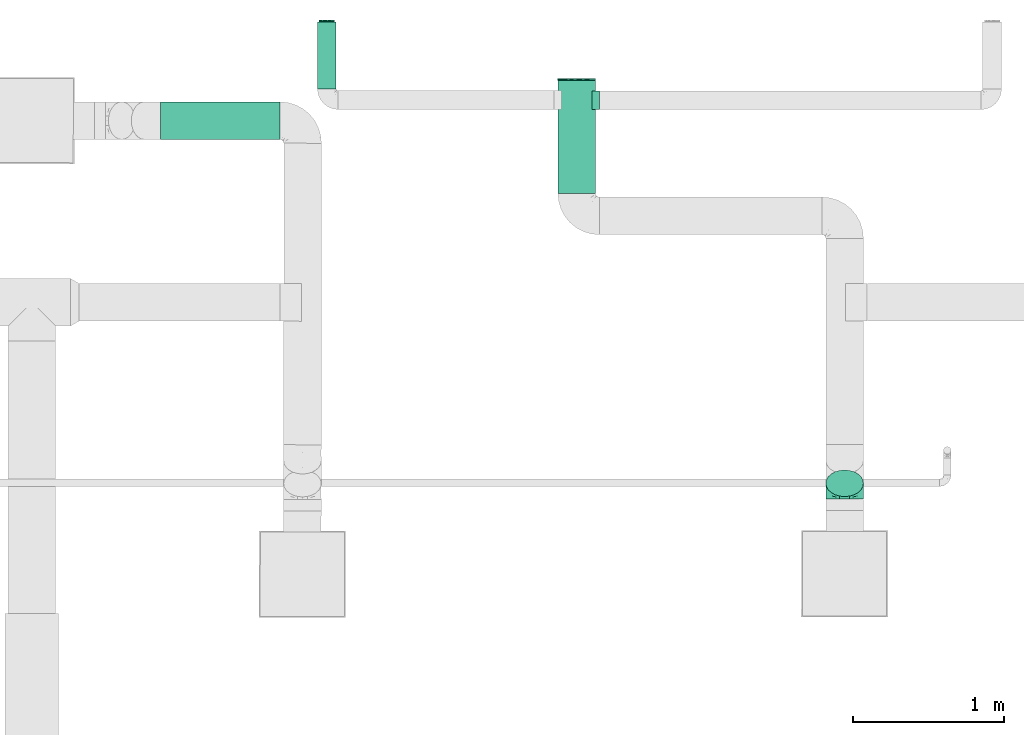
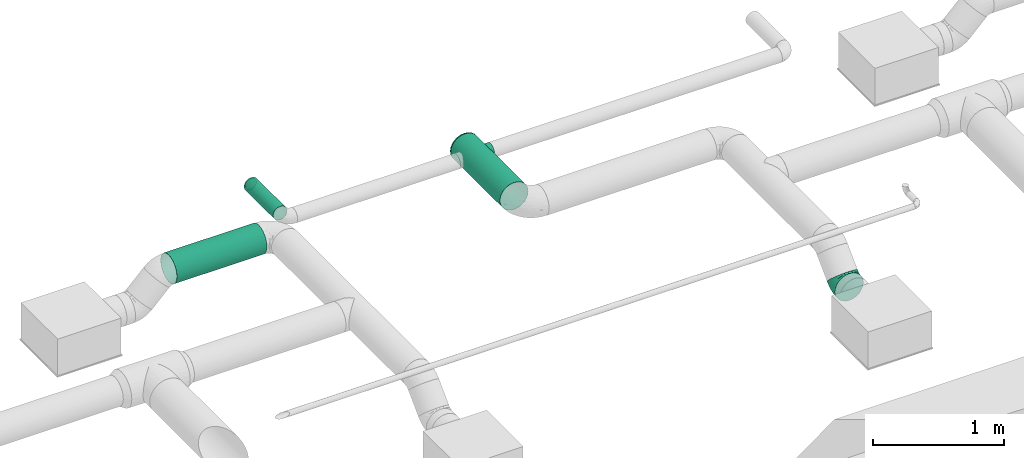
# One storey, part 40 of 63: 3 flow fittings, 3 flow segments, 1 flow terminal.
"""IFC2X3 building model written with IfcOpenShell, lengths in millimetres."""

from ifc_helpers import new_model, entity, si_unit, converted_unit, derived_unit, direction, frame, origin_with_axes, origin_2d_with_axis, place, context, subcontext, project, spatial, hollow_circle, extrude, open_shell, surface_model, source, transform, mapped, type_object, element, save


model = new_model("IFC2X3")

# Units and contexts
model_context = context("Model", 3, precision=0.01, world=frame((0.0, 4.29681676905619e-09, 0.0)), true_north=direction((4.01073788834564e-13, 1.0)))
plan_context = context("Plan", 3, precision=0.01, world=frame((0.0, 4.29681676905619e-09, 0.0)), true_north=direction((4.01073788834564e-13, 1.0)))
body_context = subcontext(model_context, "Body", "Model", "MODEL_VIEW")
ifc_project = project(units=[converted_unit("PLANEANGLEUNIT", "DEGREE", entity("IfcPositiveLengthMeasure", 0.0174532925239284), si_unit("PLANEANGLEUNIT", "RADIAN"), dimensions=[0, 0, 0, 0, 0, 0, 0]), si_unit("AREAUNIT", "SQUARE_METRE"), si_unit("LENGTHUNIT", "METRE", prefix="MILLI"), si_unit("MASSUNIT", "GRAM", prefix="KILO"), si_unit("POWERUNIT", "WATT"), si_unit("PRESSUREUNIT", "PASCAL"), si_unit("FORCEUNIT", "NEWTON", prefix="KILO"), si_unit("ELECTRICVOLTAGEUNIT", "VOLT"), si_unit("ELECTRICCURRENTUNIT", "AMPERE"), si_unit("THERMODYNAMICTEMPERATUREUNIT", "DEGREE_CELSIUS"), si_unit("TIMEUNIT", "SECOND"), si_unit("VOLUMEUNIT", "CUBIC_METRE"), derived_unit("LINEARVELOCITYUNIT", [(si_unit("LENGTHUNIT", "METRE"), 1), (si_unit("TIMEUNIT", "SECOND"), -1)]), derived_unit("VOLUMETRICFLOWRATEUNIT", [(si_unit("VOLUMEUNIT", "CUBIC_METRE"), 1), (si_unit("TIMEUNIT", "SECOND"), -1)]), derived_unit("THERMALTRANSMITTANCEUNIT", [(si_unit("POWERUNIT", "WATT"), 1), (si_unit("THERMODYNAMICTEMPERATUREUNIT", "KELVIN"), -1), (si_unit("AREAUNIT", "SQUARE_METRE"), -1)]), derived_unit("SOUNDPRESSUREUNIT", [(si_unit("PRESSUREUNIT", "PASCAL"), 1)])], contexts=[model_context, plan_context])

# Site, building, storey
site_placement = place(None, frame((0.0, -4.29681676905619e-09, 0.0), z_axis=(0.0, 0.0, 1.0), x_axis=(1.0, 0.0, 0.0)))
site = spatial("IfcSite", under=ifc_project, at=site_placement, CompositionType="ELEMENT")
building_placement = place(site_placement, frame((0.0, 4.29681676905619e-09, 0.0), z_axis=(0.0, 0.0, 1.0), x_axis=(1.0, 0.0, 0.0)))
building = spatial("IfcBuilding", under=site, at=building_placement, Name="mc-building", CompositionType="ELEMENT")
storey_placement = place(building_placement, frame((0.0, 0.0, 210900.0), z_axis=(0.0, 0.0, 1.0), x_axis=(1.0, 0.0, 0.0)))
storey = spatial("IfcBuildingStorey", under=building, at=storey_placement, Name="Nivå F", CompositionType="ELEMENT", Elevation=210900.0)

# Flow fittings
duct_fitting_type_1 = type_object("IfcDuctFittingType", Name="magicirc_elbow_short_001", PredefinedType="BEND")
shared_shape_1 = source(origin_with_axes(), body_context, "Body", "SurfaceModel", [
    surface_model("IfcShellBasedSurfaceModel", [(-62.13204, 0.0, -125.0), (-62.13204, -32.35238, -120.74073), (-62.13204, 32.35238, -120.74073), (-62.13204, 62.5, -108.25318), (-62.13204, 88.38835, -88.38835), (-62.13204, 108.25318, -62.5), (-62.13204, 120.74073, -32.35238), (-62.13204, -62.5, -108.25318), (-62.13204, -88.38835, -88.38835), (-62.13204, -125.0, 0.0), (-62.13204, -108.25318, -62.5), (-62.13204, -120.74073, -32.35238), (-62.13204, 125.0, 0.0), (-62.13204, -120.74073, 32.35238), (-62.13204, 120.74073, 32.35238), (-62.13204, 108.25318, 62.5), (-62.13204, 32.35238, 120.74073), (-62.13204, 62.5, 108.25318), (-62.13204, 88.38835, 88.38835), (-62.13204, -88.38835, 88.38835), (-62.13204, -108.25318, 62.5), (-62.13204, -32.35238, 120.74073), (-62.13204, 0.0, 125.0), (-62.13204, -62.5, 108.25318), (-32.61257, 120.48054, -62.5), (-41.44261, 129.31057, -32.35238), (-44.45436, 132.32233, 0.0), (-41.44261, 129.31057, 32.35238), (-32.61257, 120.48054, 62.5), (-39.32094, -100.77129, 72.52866), (-25.3983, -115.58366, 40.92131), (-9.38975, -99.61313, 67.6303), (-40.71594, 99.20513, 81.38635), (-18.56602, 106.43398, 88.38835), (6.93461, -16.74165, 121.22697), (-29.92798, -19.88945, 122.8817), (-17.69423, -50.99343, 111.83063), (-28.63512, 12.8945, 124.68547), (-43.55871, 45.16564, 117.17454), (-19.1971, 46.34588, 119.14586), (20.11216, -107.05726, 35.36285), (37.22525, -89.79474, 60.1728), (-42.64489, 65.81413, 107.6176), (18.18237, -43.89615, 109.72868), (-48.14682, 116.23669, 52.46898), (11.13029, 29.36587, 124.68547), (-8.4822, -119.71595, 0.0), (17.31186, -111.89141, 0.0), (-27.44697, 77.92943, 103.54984), (-1.13628, 62.73759, 117.17454), (-0.26019, 88.12816, 108.25318), (29.58221, -71.41779, 87.09722), (2.27359, -83.55864, 84.32151), (46.20365, -49.09439, 98.73245), (43.10591, -104.06687, 0.0), (-28.63512, 12.89449, -124.68547), (-29.92797, -19.88945, -122.8817), (11.13029, 29.36586, -124.68547), (-19.1971, 46.34588, -119.14586), (-43.55871, 45.16564, -117.17454), (-35.69649, 74.51237, -103.54983), (-25.3983, -115.58366, -40.92131), (-48.14682, 116.23669, -52.46898), (-39.32094, -100.77129, -72.52866), (-16.38313, 76.69211, -107.6176), (-18.56602, 106.43398, -88.38835), (-0.26019, 88.12816, -108.25318), (-17.69423, -50.99343, -111.83063), (6.93461, -16.74165, -121.22697), (-1.13628, 62.73759, -117.17454), (48.5695, -23.54609, -111.83063), (35.22623, 7.0983, -122.8817), (-9.38975, -99.61313, -67.63031), (2.04406, -67.38589, -98.73245), (29.58221, -71.41778, -87.09723), (43.93399, 43.934, -125.0), (106.43399, -18.56599, 88.38835), (132.32235, -44.45434, 0.0), (21.05739, 66.81058, -120.74073), (88.12817, -0.26017, 108.25318), (66.81057, 21.05741, -120.74073), (106.43399, -18.56599, -88.38835), (88.12817, -0.26017, -108.25318), (129.31058, -41.44258, -32.35238), (120.48055, -32.61255, -62.5), (21.05739, 66.81058, 120.74073), (43.93399, 43.934, 125.0), (129.31058, -41.44258, 32.35238), (120.48055, -32.61255, 62.5), (66.81057, 21.05741, 120.74073), (-31.08246, -121.94188, 0.0), (35.22622, 7.09831, 122.8817), (-25.98217, -78.69805, 94.74512), (-3.43913, -67.17105, 100.02812), (77.07669, -63.79755, 67.6303), (61.9235, -89.5906, 35.66991), (-52.56496, 126.90301, 0.0), (99.68931, -63.77067, 40.92131), (48.5695, -23.54609, 111.83062), (99.06018, -43.45194, 72.52866), (74.0201, -37.27574, 94.74512), (108.20455, -64.2473, 0.0), (90.64979, -78.65413, 0.0), (66.87785, -91.36049, 0.0), (19.56361, -107.13664, -35.66991), (-41.35812, 98.93914, -81.38635), (-25.98217, -78.69805, -94.74512), (61.47949, -89.92235, -35.36285), (18.18239, -43.89616, -109.72867), (57.47721, -60.69254, -84.32152), (74.02009, -37.27574, -94.74513), (77.07669, -63.79755, -67.6303), (37.17223, -89.81669, -60.17279), (99.68931, -63.77066, -40.92131), (99.06018, -43.45194, -72.52866), (49.92893, -45.06527, -100.02812)], [open_shell([[[0, 1, 2]], [[3, 2, 4]], [[1, 5, 2]], [[4, 2, 5]], [[5, 1, 6]], [[7, 8, 1]], [[9, 1, 8]], [[10, 11, 8]], [[9, 8, 11]], [[9, 6, 1]], [[9, 12, 6]], [[12, 13, 14]], [[15, 14, 16]], [[16, 17, 18]], [[15, 16, 18]], [[16, 14, 19]], [[20, 19, 13]], [[19, 14, 13]], [[21, 22, 23]], [[19, 23, 22]], [[19, 22, 16]], [[9, 13, 12]], [[24, 25, 26]], [[26, 27, 28]], [[29, 30, 31]], [[32, 33, 28]], [[30, 20, 13]], [[34, 35, 36]], [[21, 35, 22]], [[21, 23, 36]], [[16, 22, 37]], [[38, 37, 39]], [[31, 40, 41]], [[42, 17, 38]], [[38, 17, 16]], [[43, 34, 36]], [[35, 37, 22]], [[14, 15, 44]], [[42, 32, 18]], [[29, 19, 20]], [[40, 31, 30]], [[37, 45, 39]], [[45, 37, 34]], [[40, 46, 47]], [[42, 18, 17]], [[33, 32, 48]], [[27, 44, 28]], [[48, 39, 49]], [[33, 48, 50]], [[44, 32, 28]], [[18, 32, 15]], [[36, 35, 21]], [[37, 35, 34]], [[41, 51, 52]], [[14, 44, 27]], [[32, 44, 15]], [[37, 38, 16]], [[42, 39, 48]], [[39, 42, 38]], [[42, 48, 32]], [[48, 49, 50]], [[45, 49, 39]], [[30, 29, 20]], [[53, 43, 51]], [[46, 40, 30]], [[47, 54, 40]], [[41, 52, 31]], [[0, 2, 55]], [[56, 1, 0]], [[57, 55, 58]], [[59, 60, 58]], [[10, 61, 11]], [[3, 4, 60]], [[62, 6, 25]], [[61, 10, 63]], [[64, 65, 66]], [[1, 56, 67]], [[8, 63, 10]], [[7, 1, 67]], [[56, 55, 68]], [[25, 24, 62]], [[69, 64, 66]], [[2, 3, 59]], [[59, 55, 2]], [[69, 57, 58]], [[70, 68, 71]], [[55, 57, 68]], [[55, 56, 0]], [[67, 56, 68]], [[57, 71, 68]], [[6, 62, 5]], [[60, 59, 3]], [[55, 59, 58]], [[64, 58, 60]], [[58, 64, 69]], [[61, 63, 72]], [[72, 73, 74]], [[75, 76, 77]], [[66, 26, 78]], [[78, 79, 75]], [[24, 66, 65]], [[66, 24, 26]], [[80, 81, 82]], [[80, 75, 81]], [[81, 83, 84]], [[83, 81, 77]], [[75, 77, 81]], [[26, 28, 50]], [[50, 85, 26]], [[50, 28, 33]], [[26, 85, 86]], [[87, 76, 88]], [[77, 76, 87]], [[79, 86, 89]], [[76, 75, 79]], [[86, 79, 26]], [[78, 26, 79]], [[90, 46, 30]], [[91, 45, 34]], [[23, 92, 36]], [[52, 93, 92]], [[94, 41, 95]], [[23, 19, 92]], [[96, 14, 27]], [[40, 95, 41]], [[96, 12, 14]], [[94, 95, 97]], [[40, 54, 95]], [[98, 89, 91]], [[99, 88, 76]], [[89, 98, 79]], [[88, 99, 97]], [[88, 97, 87]], [[98, 100, 79]], [[53, 94, 100]], [[97, 101, 87]], [[85, 50, 49]], [[41, 94, 51]], [[30, 13, 90]], [[26, 96, 27]], [[95, 102, 97]], [[95, 54, 103]], [[86, 91, 89]], [[86, 85, 45]], [[45, 85, 49]], [[34, 43, 98]], [[29, 92, 19]], [[79, 100, 76]], [[52, 92, 31]], [[95, 103, 102]], [[53, 100, 98]], [[99, 100, 94]], [[45, 91, 86]], [[98, 91, 34]], [[13, 9, 90]], [[101, 97, 102]], [[101, 77, 87]], [[92, 29, 31]], [[100, 99, 76]], [[97, 99, 94]], [[93, 36, 92]], [[51, 43, 93]], [[51, 93, 52]], [[43, 36, 93]], [[43, 53, 98]], [[94, 53, 51]], [[104, 46, 61]], [[78, 75, 57]], [[4, 105, 60]], [[73, 72, 106]], [[80, 82, 70]], [[61, 90, 11]], [[83, 77, 101]], [[106, 7, 67]], [[107, 102, 103]], [[104, 54, 47]], [[72, 104, 61]], [[106, 8, 7]], [[68, 108, 67]], [[6, 12, 96]], [[109, 110, 111]], [[96, 26, 25]], [[112, 72, 74]], [[113, 83, 101]], [[82, 81, 110]], [[113, 84, 83]], [[64, 105, 65]], [[4, 5, 105]], [[114, 81, 84]], [[110, 109, 115]], [[70, 82, 110]], [[66, 78, 69]], [[75, 80, 71]], [[111, 114, 113]], [[108, 68, 70]], [[113, 101, 102]], [[107, 104, 112]], [[107, 111, 113]], [[111, 107, 112]], [[71, 57, 75]], [[104, 47, 46]], [[96, 25, 6]], [[114, 110, 81]], [[107, 54, 104]], [[73, 106, 67]], [[63, 106, 72]], [[62, 105, 5]], [[65, 105, 24]], [[70, 71, 80]], [[90, 61, 46]], [[90, 9, 11]], [[72, 112, 104]], [[112, 74, 109]], [[105, 62, 24]], [[57, 69, 78]], [[64, 60, 105]], [[113, 114, 84]], [[110, 114, 111]], [[106, 63, 8]], [[115, 70, 110]], [[73, 108, 74]], [[102, 107, 113]], [[103, 54, 107]], [[112, 109, 111]], [[74, 108, 115]], [[74, 115, 109]], [[108, 70, 115]], [[108, 73, 67]]])]),
])
flow_fitting_1_placement = place(storey_placement, frame((530503.93769, 458542.69898, 3960.01264), z_axis=(0.999999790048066, -0.000647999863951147, 0.0), x_axis=(0.000647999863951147, 0.999999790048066, 0.0)))
element("IfcFlowFitting", 1, at=flow_fitting_1_placement, inside=storey, type_object=duct_fitting_type_1, Name="magicirc_elbow_short_001", context=body_context, shape_type="MappedRepresentation", body=[
    mapped(shared_shape_1, transform((0.0, 0.0, 0.0), scale=1.0)),
])
duct_fitting_type_2 = type_object("IfcDuctFittingType", Name="magicirc_plug_001", PredefinedType="OBSTRUCTION")
shared_shape_2 = source(origin_with_axes(), body_context, "Body", "SurfaceModel", [
    surface_model("IfcShellBasedSurfaceModel", [(0.0, 32.35238, -120.74073), (0.0, 0.0, -125.0), (0.0, 108.25318, -62.5), (0.0, 62.5, -108.25318), (0.0, 88.38835, -88.38835), (0.0, 120.74073, -32.35238), (0.0, -32.35238, -120.74073), (0.0, -62.5, -108.25318), (0.0, -88.38835, -88.38835), (0.0, -125.0, 0.0), (0.0, -108.25318, -62.5), (0.0, -120.74073, -32.35238), (0.0, 125.0, 0.0), (0.0, 108.25318, 62.5), (0.0, 120.74073, 32.35238), (0.0, 88.38835, 88.38835), (0.0, 32.35238, 120.74073), (0.0, 62.5, 108.25318), (0.0, -32.35238, 120.74073), (0.0, -88.38835, 88.38835), (0.0, -62.5, 108.25318), (0.0, -108.25318, 62.5), (0.0, -120.74073, 32.35238), (0.0, 0.0, 125.0), (10.0, 88.38835, -88.38835), (10.0, 0.0, -125.0), (10.0, 32.35238, -120.74073), (10.0, 62.5, -108.25318), (10.0, 108.25318, -62.5), (10.0, 120.74073, -32.35238), (10.0, -32.35238, -120.74073), (10.0, -88.38835, -88.38835), (10.0, -62.5, -108.25318), (10.0, -125.0, 0.0), (10.0, -120.74073, -32.35238), (10.0, -108.25318, -62.5), (10.0, -108.25318, 62.5), (10.0, 88.38835, 88.38835), (10.0, 125.0, 0.0), (10.0, 120.74073, 32.35238), (10.0, 108.25318, 62.5), (10.0, 62.5, 108.25318), (10.0, 32.35238, 120.74073), (10.0, -32.35238, 120.74073), (10.0, -62.5, 108.25318), (10.0, -88.38835, 88.38835), (10.0, -120.74073, 32.35238), (10.0, 0.0, 125.0)], [open_shell([[[0, 1, 2]], [[3, 0, 4]], [[1, 5, 2]], [[4, 0, 2]], [[6, 5, 1]], [[7, 8, 6]], [[9, 6, 8]], [[10, 11, 8]], [[9, 8, 11]], [[9, 5, 6]], [[9, 12, 5]], [[13, 14, 12]], [[15, 13, 12]], [[16, 17, 15]], [[12, 16, 15]], [[9, 18, 16]], [[19, 20, 21]], [[21, 9, 22]], [[9, 21, 20]], [[9, 20, 18]], [[16, 18, 23]], [[12, 9, 16]], [[24, 25, 26]], [[24, 26, 27]], [[28, 29, 25]], [[28, 25, 24]], [[25, 29, 30]], [[30, 31, 32]], [[31, 30, 33]], [[31, 34, 35]], [[34, 31, 33]], [[30, 29, 33]], [[29, 36, 33]], [[37, 38, 39]], [[37, 39, 40]], [[37, 41, 42]], [[38, 37, 43]], [[43, 37, 42]], [[36, 44, 45]], [[46, 33, 36]], [[38, 44, 36]], [[38, 43, 44]], [[47, 43, 42]], [[36, 29, 38]], [[46, 9, 33]], [[36, 22, 46]], [[19, 45, 44]], [[36, 45, 21]], [[20, 44, 43]], [[36, 21, 22]], [[22, 9, 46]], [[18, 47, 23]], [[18, 20, 43]], [[19, 44, 20]], [[19, 21, 45]], [[47, 18, 43]], [[41, 16, 42]], [[37, 17, 41]], [[13, 40, 39]], [[37, 40, 15]], [[14, 39, 38]], [[41, 17, 16]], [[16, 23, 42]], [[14, 13, 39]], [[15, 40, 13]], [[15, 17, 37]], [[12, 14, 38]], [[42, 23, 47]], [[29, 12, 38]], [[28, 5, 29]], [[4, 24, 27]], [[28, 24, 2]], [[3, 27, 26]], [[28, 2, 5]], [[5, 12, 29]], [[0, 25, 1]], [[0, 3, 26]], [[4, 27, 3]], [[4, 2, 24]], [[25, 0, 26]], [[6, 30, 32]], [[7, 32, 31]], [[11, 35, 34]], [[9, 34, 33]], [[31, 35, 8]], [[32, 7, 6]], [[6, 1, 30]], [[8, 35, 10]], [[11, 10, 35]], [[9, 11, 34]], [[8, 7, 31]], [[30, 1, 25]]])]),
])
flow_fitting_2_placement = place(storey_placement, frame((528724.09314, 461262.68623, 4200.0), z_axis=(0.0, 0.0, 1.0), x_axis=(0.0, 1.0, 0.0)))
element("IfcFlowFitting", 2, at=flow_fitting_2_placement, inside=storey, type_object=duct_fitting_type_2, Name="magicirc_plug_001", context=body_context, shape_type="MappedRepresentation", body=[
    mapped(shared_shape_2, transform((0.0, 0.0, 0.0), scale=1.0)),
])
duct_fitting_type_3 = type_object("IfcDuctFittingType", Name="magicirc_tapoutlet_001", PredefinedType="CONNECTOR")
shared_shape_3 = source(origin_with_axes(), body_context, "Body", "SurfaceModel", [
    surface_model("IfcShellBasedSurfaceModel", [(25.0, 0.0, -62.5), (25.0, -31.25, -54.12659), (25.0, -16.17619, -60.37037), (-22.84282, 0.0, -62.5), (-22.84282, -16.17619, -60.37037), (-22.84282, 16.17619, -60.37037), (-22.84282, 60.37037, 16.17619), (-22.84282, 31.25, -54.12659), (-22.84282, 44.19417, -44.19417), (-22.84282, 54.12659, -31.25), (-22.84282, -62.5, 0.0), (-22.84282, -60.37037, 16.17619), (-22.84282, -44.19417, -44.19417), (-22.84282, -31.25, -54.12659), (-22.84282, -60.37037, -16.17619), (-22.84282, -54.12659, -31.25), (-22.84282, 60.37037, -16.17619), (-22.84282, 54.12659, 31.25), (-22.84282, 44.19417, 44.19417), (-22.84282, 16.17619, 60.37037), (-22.84282, 31.25, 54.12659), (-22.84282, -16.17619, 60.37037), (-22.84282, -54.12659, 31.25), (-22.84282, -44.19417, 44.19417), (-22.84282, -31.25, 54.12659), (-22.84282, 0.0, 62.5), (-22.84282, 62.5, 0.0), (0.0, 0.0, 62.5), (0.0, 16.17619, 60.37037), (0.0, 31.25, 54.12659), (0.0, 44.19417, 44.19417), (0.0, 54.12659, 31.25), (0.0, 60.37037, 16.17619), (0.0, 62.5, 0.0), (0.0, 60.37037, -16.17619), (0.0, 54.12659, -31.25), (0.0, 44.19417, -44.19417), (0.0, 31.25, -54.12659), (0.0, 16.17619, -60.37037), (0.0, 0.0, -62.5), (0.0, -16.17619, -60.37037), (0.0, -31.25, -54.12659), (0.0, -44.19417, -44.19417), (0.0, -54.12659, -31.25), (0.0, -60.37037, -16.17619), (0.0, -62.5, 0.0), (0.0, -60.37037, 16.17619), (0.0, -54.12659, 31.25), (0.0, -44.19417, 44.19417), (0.0, -31.25, 54.12659), (0.0, -16.17619, 60.37037), (25.0, 44.19417, -44.19417), (25.0, 62.5, 0.0), (25.0, 31.25, -54.12659), (25.0, 54.12659, -31.25), (25.0, -62.5, 0.0), (25.0, -60.37037, -16.17619), (25.0, -60.37037, 16.17619), (25.0, 16.17619, -60.37037), (25.0, -44.19417, -44.19417), (25.0, -54.12659, -31.25), (25.0, 60.37037, -16.17619), (25.0, 60.37037, 16.17619), (25.0, 54.12659, 31.25), (25.0, 44.19417, 44.19417), (25.0, 31.25, 54.12659), (25.0, 0.0, 62.5), (25.0, 16.17619, 60.37037), (25.0, -44.19417, 44.19417), (25.0, -54.12659, 31.25), (25.0, -16.17619, 60.37037), (25.0, -31.25, 54.12659)], [open_shell([[[0, 1, 2]], [[3, 4, 5]], [[5, 6, 7]], [[8, 6, 9]], [[7, 6, 8]], [[5, 10, 11]], [[12, 10, 13]], [[4, 13, 10]], [[14, 10, 15]], [[12, 15, 10]], [[10, 5, 4]], [[16, 9, 6]], [[6, 5, 17]], [[18, 17, 5]], [[5, 19, 20]], [[5, 20, 18]], [[5, 21, 19]], [[22, 23, 5]], [[5, 11, 22]], [[23, 24, 5]], [[5, 24, 21]], [[21, 25, 19]], [[26, 16, 6]], [[25, 27, 28]], [[19, 28, 29]], [[25, 28, 19]], [[20, 30, 18]], [[20, 19, 29]], [[30, 20, 29]], [[17, 31, 32]], [[6, 32, 33]], [[18, 31, 17]], [[6, 17, 32]], [[26, 6, 33]], [[31, 18, 30]], [[26, 33, 34]], [[16, 34, 35]], [[26, 34, 16]], [[9, 36, 8]], [[9, 16, 35]], [[36, 9, 35]], [[7, 37, 38]], [[5, 38, 39]], [[8, 37, 7]], [[5, 7, 38]], [[3, 5, 39]], [[37, 8, 36]], [[3, 39, 40]], [[4, 40, 41]], [[3, 40, 4]], [[13, 42, 12]], [[13, 4, 41]], [[42, 13, 41]], [[15, 43, 44]], [[14, 44, 45]], [[12, 43, 15]], [[14, 15, 44]], [[10, 14, 45]], [[43, 12, 42]], [[10, 45, 46]], [[11, 46, 47]], [[10, 46, 11]], [[22, 48, 23]], [[22, 11, 47]], [[48, 22, 47]], [[24, 49, 50]], [[21, 50, 27]], [[23, 49, 24]], [[21, 24, 50]], [[25, 21, 27]], [[49, 23, 48]], [[5, 17, 6]], [[5, 18, 17]], [[20, 5, 19]], [[20, 18, 5]], [[19, 5, 21]], [[22, 5, 11]], [[51, 52, 53]], [[51, 54, 52]], [[55, 56, 57]], [[58, 52, 0]], [[53, 52, 58]], [[59, 0, 57]], [[0, 59, 1]], [[1, 2, 0]], [[60, 57, 56]], [[57, 60, 59]], [[56, 57, 55]], [[52, 54, 61]], [[62, 63, 0]], [[0, 63, 64]], [[0, 65, 66]], [[64, 65, 0]], [[65, 67, 66]], [[0, 68, 69]], [[69, 57, 0]], [[70, 71, 0]], [[71, 68, 0]], [[70, 0, 66]], [[52, 62, 0]], [[27, 66, 67]], [[28, 67, 65]], [[27, 67, 28]], [[29, 64, 30]], [[29, 28, 65]], [[64, 29, 65]], [[31, 63, 62]], [[32, 62, 52]], [[30, 63, 31]], [[32, 31, 62]], [[33, 32, 52]], [[63, 30, 64]], [[33, 52, 61]], [[34, 61, 54]], [[33, 61, 34]], [[35, 51, 36]], [[35, 34, 54]], [[51, 35, 54]], [[37, 53, 58]], [[38, 58, 0]], [[36, 53, 37]], [[38, 37, 58]], [[39, 38, 0]], [[53, 36, 51]], [[39, 0, 2]], [[40, 2, 1]], [[39, 2, 40]], [[41, 59, 42]], [[41, 40, 1]], [[59, 41, 1]], [[43, 60, 56]], [[44, 56, 55]], [[42, 60, 43]], [[44, 43, 56]], [[45, 44, 55]], [[60, 42, 59]], [[45, 55, 57]], [[46, 57, 69]], [[45, 57, 46]], [[47, 68, 48]], [[47, 46, 69]], [[68, 47, 69]], [[49, 71, 70]], [[50, 70, 66]], [[48, 71, 49]], [[50, 49, 70]], [[27, 50, 66]], [[71, 48, 68]], [[63, 0, 62]], [[63, 64, 0]], [[0, 64, 65]], [[66, 65, 67]], [[57, 0, 69]], [[0, 71, 68]], [[66, 70, 0]], [[62, 0, 52]]])]),
])
flow_fitting_3_placement = place(storey_placement, frame((528849.09314, 461130.9708, 4200.0), z_axis=(0.0, 0.0, -1.0), x_axis=(1.0, 0.0, 0.0)))
element("IfcFlowFitting", 3, at=flow_fitting_3_placement, inside=storey, type_object=duct_fitting_type_3, Name="magicirc_tapoutlet_001", context=body_context, shape_type="MappedRepresentation", body=[
    mapped(shared_shape_3, transform((0.0, 0.0, 0.0), scale=1.0)),
])

# Flow segments
duct_segment_type = type_object("IfcDuctSegmentType", Name="KK002T - Spiro kanaler, Forsinket stål, korte bend", PredefinedType="RIGIDSEGMENT")
shared_shape_4 = source(origin_with_axes(), body_context, "Body", "SweptSolid", [
    extrude(hollow_circle(Radius=125.0, WallThickness=2.0, at=origin_2d_with_axis()), frame((0.0, 0.0, 0.0), z_axis=(1.0, 0.0, 0.0), x_axis=(0.0, 1.0, 0.0)), (0.0, 0.0, 1.0), 750.0),
])
flow_segment_1_placement = place(storey_placement, frame((528724.09314, 460512.68623, 4200.0), z_axis=(0.0, 0.0, 1.0), x_axis=(0.0, 1.0, 0.0)))
element("IfcFlowSegment", 4, at=flow_segment_1_placement, inside=storey, type_object=duct_segment_type, Name="KK002T - Spiro kanaler, Forsinket stål, korte bend", context=body_context, shape_type="MappedRepresentation", body=[
    mapped(shared_shape_4, transform((0.0, 0.0, 0.0), scale=1.0)),
])
shared_shape_5 = source(origin_with_axes(), body_context, "Body", "SweptSolid", [
    extrude(hollow_circle(Radius=125.0, WallThickness=2.0, at=origin_2d_with_axis()), frame((0.0, 0.0, 0.0), z_axis=(1.0, 0.0, 0.0), x_axis=(0.0, 1.0, 0.0)), (0.0, 0.0, 1.0), 793.8),
])
flow_segment_2_placement = place(storey_placement, frame((525960.02226, 460995.43816, 4200.0), z_axis=(0.0, 0.0, 1.0), x_axis=(1.0, 0.0, 0.0)))
element("IfcFlowSegment", 5, at=flow_segment_2_placement, inside=storey, type_object=duct_segment_type, Name="KK002T - Spiro kanaler, Forsinket stål, korte bend", context=body_context, shape_type="MappedRepresentation", body=[
    mapped(shared_shape_5, transform((0.0, 0.0, 0.0), scale=1.0)),
])
shared_shape_6 = source(origin_with_axes(), body_context, "Body", "SweptSolid", [
    extrude(hollow_circle(Radius=62.5, WallThickness=2.0, at=origin_2d_with_axis()), frame((0.0, 0.0, 0.0), z_axis=(1.0, 0.0, 0.0), x_axis=(0.0, 1.0, 0.0)), (0.0, 0.0, 1.0), 443.9),
])
flow_segment_3_placement = place(storey_placement, frame((527064.09314, 461207.06301, 4200.0), z_axis=(0.0, 0.0, 1.0), x_axis=(0.0, 1.0, 0.0)))
element("IfcFlowSegment", 6, at=flow_segment_3_placement, inside=storey, type_object=duct_segment_type, Name="KK002T - Spiro kanaler, Forsinket stål, korte bend", context=body_context, shape_type="MappedRepresentation", body=[
    mapped(shared_shape_6, transform((0.0, 0.0, 0.0), scale=1.0)),
])

# Flow terminal
air_terminal_type = type_object("IfcAirTerminalType", Name="NETTING-125", PredefinedType="NOTDEFINED")
shared_shape_7 = source(origin_with_axes(), body_context, "Body", "SurfaceModel", [
    surface_model("IfcShellBasedSurfaceModel", [(12.94095, -48.29629, 10.0), (25.0, -43.30127, 10.0), (35.35534, -35.35534, 10.0), (43.30127, -25.0, 10.0), (48.29629, -12.94095, 10.0), (0.0, -50.0, 10.0), (50.0, 0.0, 10.0), (-25.0, -43.30127, 10.0), (-12.94095, -48.29629, 10.0), (-35.35534, -35.35534, 10.0), (-48.29629, -12.94095, 10.0), (-43.30127, -25.0, 10.0), (-48.29629, 12.94095, 10.0), (48.29629, 12.94095, 10.0), (43.30127, 25.0, 10.0), (35.35534, 35.35534, 10.0), (12.94095, 48.29629, 10.0), (0.0, 50.0, 10.0), (25.0, 43.30127, 10.0), (-35.35534, 35.35534, 10.0), (-43.30127, 25.0, 10.0), (-50.0, 0.0, 10.0), (-12.94095, 48.29629, 10.0), (-25.0, 43.30127, 10.0), (48.29629, 12.94095, 0.0), (0.0, 50.0, 0.0), (12.94095, 48.29629, 0.0), (25.0, 43.30127, 0.0), (35.35534, 35.35534, 0.0), (43.30127, 25.0, 0.0), (-35.35534, 35.35534, 0.0), (-12.94095, 48.29629, 0.0), (-25.0, 43.30127, 0.0), (-48.29629, 12.94095, 0.0), (-43.30127, 25.0, 0.0), (-25.0, -43.30127, 0.0), (-48.29629, -12.94095, 0.0), (-50.0, 0.0, 0.0), (48.29629, -12.94095, 0.0), (12.94095, -48.29629, 0.0), (43.30127, -25.0, 0.0), (35.35534, -35.35534, 0.0), (25.0, -43.30127, 0.0), (-35.35534, -35.35534, 0.0), (-43.30127, -25.0, 0.0), (-12.94095, -48.29629, 0.0), (0.0, -50.0, 0.0), (50.0, 0.0, 0.0)], [open_shell([[[0, 1, 2]], [[0, 2, 3]], [[0, 4, 5]], [[4, 0, 3]], [[5, 4, 6]], [[5, 7, 8]], [[5, 6, 7]], [[9, 10, 11]], [[10, 9, 7]], [[7, 12, 10]], [[7, 6, 13]], [[13, 14, 15]], [[13, 15, 16]], [[16, 17, 13]], [[16, 15, 18]], [[13, 17, 19]], [[12, 19, 20]], [[21, 10, 12]], [[19, 22, 23]], [[7, 19, 12]], [[17, 22, 19]], [[7, 13, 19]], [[24, 25, 26]], [[24, 26, 27]], [[28, 29, 24]], [[28, 24, 27]], [[25, 24, 30]], [[31, 30, 32]], [[31, 25, 30]], [[30, 33, 34]], [[33, 30, 35]], [[36, 37, 33]], [[35, 30, 24]], [[24, 38, 35]], [[39, 38, 40]], [[41, 42, 39]], [[41, 39, 40]], [[35, 38, 39]], [[36, 43, 44]], [[43, 36, 35]], [[39, 45, 35]], [[36, 33, 35]], [[46, 45, 39]], [[38, 24, 47]], [[36, 10, 37]], [[44, 11, 36]], [[7, 43, 35]], [[44, 43, 9]], [[8, 35, 45]], [[36, 11, 10]], [[10, 21, 37]], [[8, 7, 35]], [[9, 43, 7]], [[9, 11, 44]], [[5, 8, 45]], [[45, 46, 5]], [[39, 0, 46]], [[42, 1, 39]], [[3, 41, 40]], [[42, 41, 2]], [[4, 40, 38]], [[42, 2, 1]], [[1, 0, 39]], [[6, 4, 38]], [[3, 40, 4]], [[3, 2, 41]], [[47, 6, 38]], [[46, 0, 5]], [[24, 13, 47]], [[29, 14, 24]], [[18, 28, 27]], [[29, 28, 15]], [[16, 27, 26]], [[24, 14, 13]], [[13, 6, 47]], [[16, 18, 27]], [[15, 28, 18]], [[15, 14, 29]], [[17, 16, 26]], [[26, 25, 17]], [[31, 22, 25]], [[32, 23, 31]], [[20, 30, 34]], [[32, 30, 19]], [[12, 34, 33]], [[32, 19, 23]], [[23, 22, 31]], [[21, 12, 33]], [[20, 34, 12]], [[20, 19, 30]], [[37, 21, 33]], [[25, 22, 17]]])]),
])
flow_terminal_placement = place(storey_placement, frame((527064.09314, 461654.04928, 4200.0), z_axis=(0.0, 1.0, 0.0), x_axis=(0.0, 0.0, -1.0)))
element("IfcFlowTerminal", 7, at=flow_terminal_placement, inside=storey, type_object=air_terminal_type, Name="NETTING-125", context=body_context, shape_type="MappedRepresentation", body=[
    mapped(shared_shape_7, transform((0.0, 0.0, 0.0), scale=1.0)),
])

save(model, "model.ifc")
